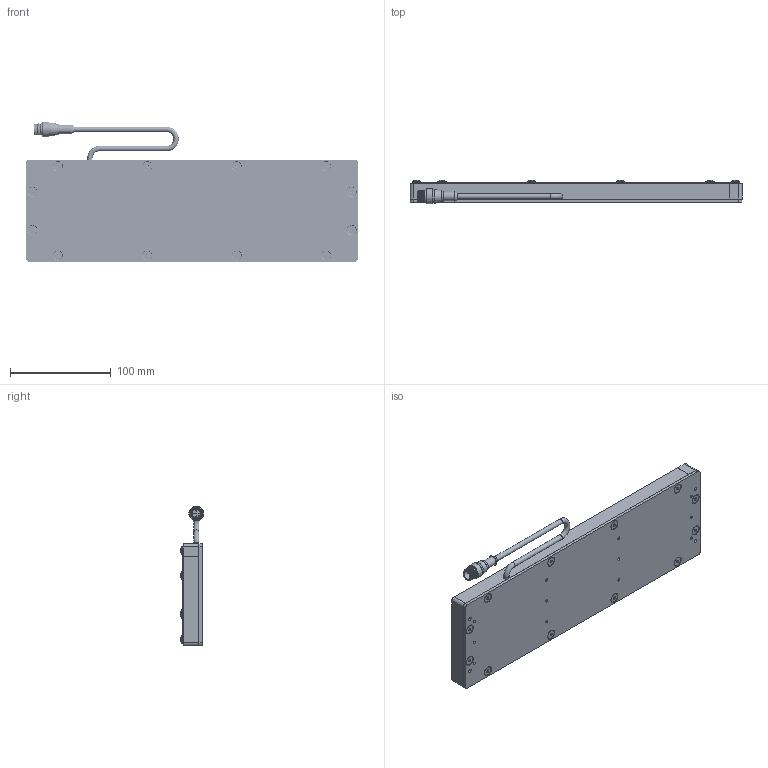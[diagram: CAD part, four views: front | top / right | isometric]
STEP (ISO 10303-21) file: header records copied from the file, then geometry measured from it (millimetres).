
FILE_DESCRIPTION (( 'STEP AP214' ), '1' );
FILE_NAME ('SBL312-XXX.STEP', '2026-04-17T18:26:28', ( '' ), ( '' ), 'SwSTEP 2.0', 'SolidWorks 2025', '' );
FILE_SCHEMA (( 'AUTOMOTIVE_DESIGN' ));
Length unit declared in the file: inch
Products named in the file (12): 8-32 x .375 Nylon Screw_.375" 94611A192; SBL3 to 18in rail_12in No CG; SBL312-XXX; WD-SBLYYXX_3x12 with holes; SBL3 to 18in rail_12in rail; M12 Connector 4,5 and 8 pin_RS4.5T; Hex Standoff .375 x 8-32; SBL3 to 18in rail_03in rail; 8-32 x 0.375 FHCS (92210A192)_92210A192; MC Pigtail 24; BackPlate BLYYXX_0312; SC Pigtail Complete 18_5pin
Assembly tree (45 placements, depth 3):
  SBL312-XXX
    BackPlate BLYYXX_0312
    SBL3 to 18in rail_12in rail
    SBL3 to 18in rail_12in No CG
    SBL3 to 18in rail_03in rail  x2
    SC Pigtail Complete 18_5pin
      MC Pigtail 24
      M12 Connector 4,5 and 8 pin_RS4.5T
    WD-SBLYYXX_3x12 with holes
    Hex Standoff .375 x 8-32  x12
    8-32 x 0.375 FHCS (92210A192)_92210A192  x12
    8-32 x .375 Nylon Screw_.375" 94611A192  x12
Bounding box: 330.2 x 23.38 x 139.13 mm (x, y, z)
Volume: 340555.1 mm3; surface area: 207463.4 mm2
Topology: 44 solids, 44 shells, 1386 faces, 3448 edges, 2199 vertices
Faces by surface type: plane 523, bspline 324, cylinder 286, cone 211, torus 25, sphere 17
Full cylindrical faces by diameter (mm): 0.762 x5, 2.705 x12, 3.454 x16, 4.496 x36, 5.207 x3, 6.604 x8, 6.858 x12, 8.128 x12, 8.382 x1, 8.636 x1, 9.119 x12, 10.16 x1, 10.541 x1, 11.938 x1, 13.716 x2, 14.732 x1
Entity records: 18115 total; most frequent: CARTESIAN_POINT 5993, DIRECTION 2229, ORIENTED_EDGE 1904, EDGE_CURVE 952, AXIS2_PLACEMENT_3D 906, EDGE_LOOP 709, VERTEX_POINT 699, FACE_OUTER_BOUND 532
